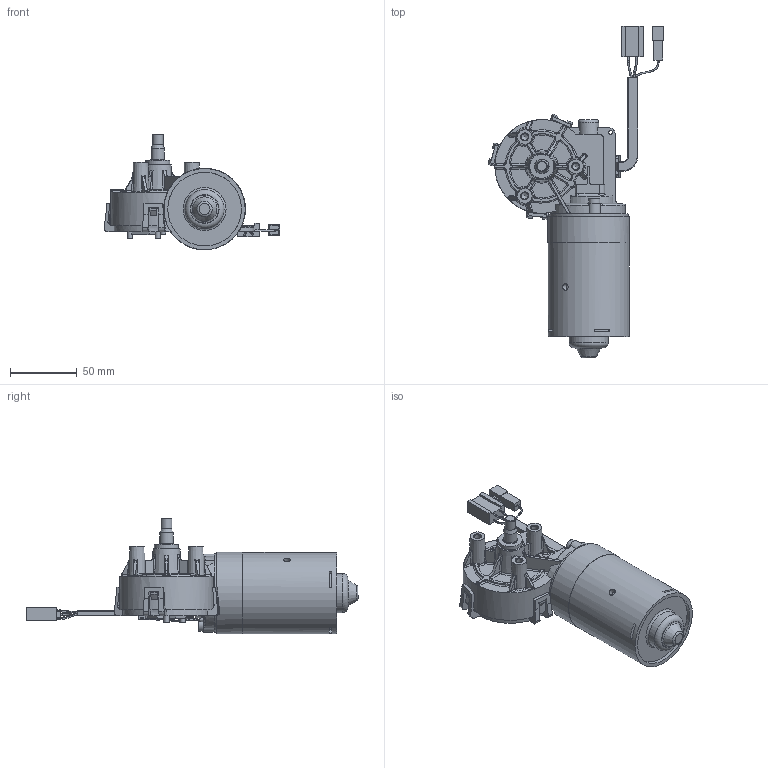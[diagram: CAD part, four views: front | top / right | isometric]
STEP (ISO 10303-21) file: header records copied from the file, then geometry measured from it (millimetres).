
FILE_DESCRIPTION(/* description */ (''),/* implementation_level */ '2;1');
FILE_NAME(/* name */ 'F006A20064_05.stp',/* time_stamp */ '2014-07-21T17:17:32+07:00',/* author */ (''),/* organization */ (''),/* preprocessor_version */ 'ST-DEVELOPER v11',/* originating_system */ 'SIEMENS PLM Software NX 7.5',/* authorisation */ '');
FILE_SCHEMA (('CONFIG_CONTROL_DESIGN'));
Length unit declared in the file: millimetre
Products named in the file (1): F006A20064_05
Bounding box: 131.18 x 247.9 x 86.5 mm (x, y, z)
Volume: 454876.6 mm3; surface area: 61999.7 mm2
Topology: 3 solids, 10 shells, 1209 faces, 3275 edges, 2043 vertices
Faces by surface type: plane 594, cylinder 327, bspline 140, torus 90, sphere 30, cone 28
Full cylindrical faces by diameter (mm): 3 x3, 4 x7, 5 x7, 5.4 x2, 5.7 x2, 8 x1, 8.5 x2, 10 x1, 15 x1, 18 x1, 29.1 x1, 55 x1, 59 x1, 60.6 x1, 61 x1
Entity records: 46043 total; most frequent: CARTESIAN_POINT 17216, ORIENTED_EDGE 6184, DIRECTION 5699, EDGE_CURVE 3092, AXIS2_PLACEMENT_3D 2072, VERTEX_POINT 2002, LINE 1555, VECTOR 1555
